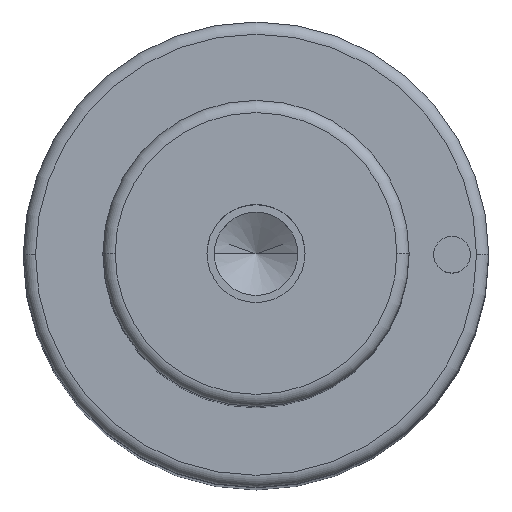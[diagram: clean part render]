
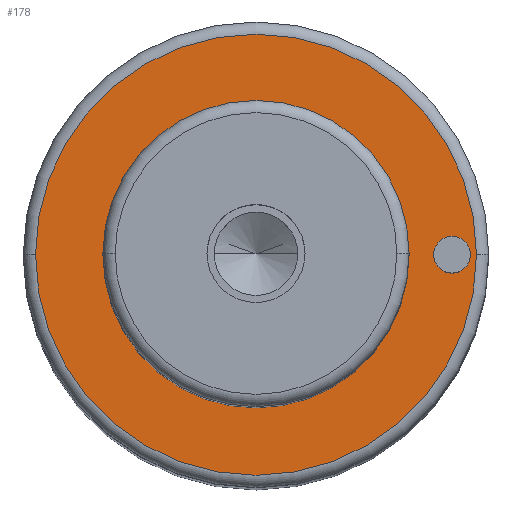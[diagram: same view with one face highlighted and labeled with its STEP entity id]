
A CAD part, top view. The second image highlights one B-rep face of the part: STEP entity #178.
In plain terms, the highlighted planar face has unit normal (0, 0, 1).
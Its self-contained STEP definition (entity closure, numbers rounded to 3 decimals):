
#105=PLANE('',#866);
#115=FACE_BOUND('',#283,.T.);
#116=FACE_BOUND('',#284,.T.);
#117=FACE_BOUND('',#285,.T.);
#178=ADVANCED_FACE('',(#115,#116,#117),#105,.T.);
#283=EDGE_LOOP('',(#473,#474));
#284=EDGE_LOOP('',(#475,#476));
#285=EDGE_LOOP('',(#477,#478));
#333=CIRCLE('',#834,12.5);
#334=CIRCLE('',#836,12.5);
#338=CIRCLE('',#841,18.);
#339=CIRCLE('',#843,18.);
#351=CIRCLE('',#864,1.5);
#352=CIRCLE('',#865,1.5);
#473=ORIENTED_EDGE('',*,*,#666,.F.);
#474=ORIENTED_EDGE('',*,*,#667,.F.);
#475=ORIENTED_EDGE('',*,*,#685,.F.);
#476=ORIENTED_EDGE('',*,*,#686,.F.);
#477=ORIENTED_EDGE('',*,*,#662,.T.);
#478=ORIENTED_EDGE('',*,*,#660,.T.);
#590=VERTEX_POINT('',#1233);
#591=VERTEX_POINT('',#1235);
#592=VERTEX_POINT('',#1241);
#595=VERTEX_POINT('',#1246);
#604=VERTEX_POINT('',#1285);
#605=VERTEX_POINT('',#1286);
#660=EDGE_CURVE('',#591,#590,#333,.T.);
#662=EDGE_CURVE('',#590,#591,#334,.T.);
#666=EDGE_CURVE('',#595,#592,#338,.T.);
#667=EDGE_CURVE('',#592,#595,#339,.T.);
#685=EDGE_CURVE('',#604,#605,#351,.T.);
#686=EDGE_CURVE('',#605,#604,#352,.T.);
#834=AXIS2_PLACEMENT_3D('',#1234,#985,#986);
#836=AXIS2_PLACEMENT_3D('',#1238,#990,#991);
#841=AXIS2_PLACEMENT_3D('',#1247,#1000,#1001);
#843=AXIS2_PLACEMENT_3D('',#1249,#1004,#1005);
#864=AXIS2_PLACEMENT_3D('',#1284,#1052,#1053);
#865=AXIS2_PLACEMENT_3D('',#1287,#1054,#1055);
#866=AXIS2_PLACEMENT_3D('',#1288,#1056,#1057);
#985=DIRECTION('',(0.,0.,-1.));
#986=DIRECTION('',(0.,1.,0.));
#990=DIRECTION('',(0.,0.,-1.));
#991=DIRECTION('',(0.,-1.,0.));
#1000=DIRECTION('',(0.,0.,-1.));
#1001=DIRECTION('',(0.,1.,0.));
#1004=DIRECTION('',(0.,0.,-1.));
#1005=DIRECTION('',(0.,-1.,0.));
#1052=DIRECTION('',(0.,0.,1.));
#1053=DIRECTION('',(0.,1.,0.));
#1054=DIRECTION('',(0.,0.,1.));
#1055=DIRECTION('',(0.,-1.,0.));
#1056=DIRECTION('',(0.,0.,1.));
#1057=DIRECTION('',(0.,-1.,0.));
#1233=CARTESIAN_POINT('',(-12.5,0.,117.));
#1234=CARTESIAN_POINT('',(0.,0.,117.));
#1235=CARTESIAN_POINT('',(12.5,0.,117.));
#1238=CARTESIAN_POINT('',(0.,0.,117.));
#1241=CARTESIAN_POINT('',(-18.,0.,117.));
#1246=CARTESIAN_POINT('',(18.,0.,117.));
#1247=CARTESIAN_POINT('',(0.,0.,117.));
#1249=CARTESIAN_POINT('',(0.,0.,117.));
#1284=CARTESIAN_POINT('',(16.,0.,117.));
#1285=CARTESIAN_POINT('',(14.5,0.,117.));
#1286=CARTESIAN_POINT('',(17.5,0.,117.));
#1287=CARTESIAN_POINT('',(16.,0.,117.));
#1288=CARTESIAN_POINT('',(0.,0.,117.));
